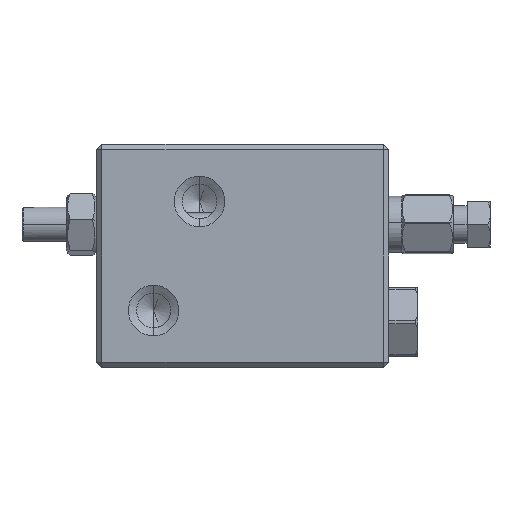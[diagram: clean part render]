
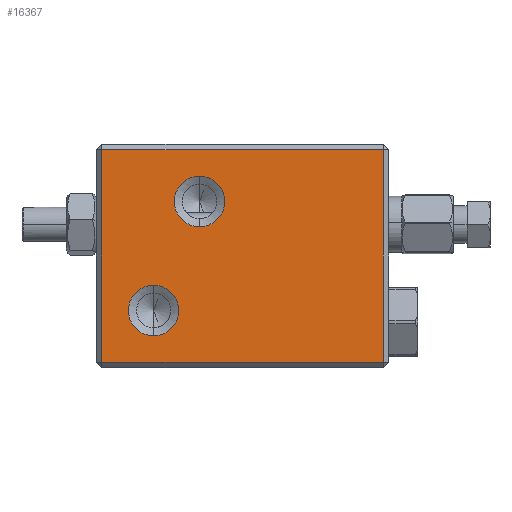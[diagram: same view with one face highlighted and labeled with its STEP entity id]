
A CAD part, left-side view. The second image highlights one B-rep face of the part: STEP entity #16367.
In plain terms, the highlighted planar face has unit normal (-1, 0, 0).
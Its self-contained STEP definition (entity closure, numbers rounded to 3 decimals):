
#327 = ORIENTED_EDGE ( 'NONE', *, *, #21890, .T. ) ;
#609 = LINE ( 'NONE', #4051, #7269 ) ;
#1397 = EDGE_CURVE ( 'NONE', #19054, #22110, #14646, .T. ) ;
#1517 = DIRECTION ( 'NONE',  ( -1., 0., 0. ) ) ;
#1699 = EDGE_CURVE ( 'NONE', #22110, #19054, #12307, .T. ) ;
#1736 = EDGE_CURVE ( 'NONE', #2591, #7936, #8582, .T. ) ;
#2591 = VERTEX_POINT ( 'NONE', #18412 ) ;
#2626 = DIRECTION ( 'NONE',  ( -1., 0., 0. ) ) ;
#2710 = CARTESIAN_POINT ( 'NONE',  ( -49., 15.5, 10. ) ) ;
#2990 = CARTESIAN_POINT ( 'NONE',  ( -49., 15.5, 5.6 ) ) ;
#3499 = AXIS2_PLACEMENT_3D ( 'NONE', #16404, #1517, #14369 ) ;
#3968 = ORIENTED_EDGE ( 'NONE', *, *, #22554, .T. ) ;
#4051 = CARTESIAN_POINT ( 'NONE',  ( -49., -24.5, 39. ) ) ;
#4118 = DIRECTION ( 'NONE',  ( 0., 0., 1. ) ) ;
#4363 = ORIENTED_EDGE ( 'NONE', *, *, #1397, .F. ) ;
#4376 = DIRECTION ( 'NONE',  ( 0., -1., 0. ) ) ;
#4484 = CIRCLE ( 'NONE', #15507, 4.4 ) ;
#5569 = ORIENTED_EDGE ( 'NONE', *, *, #14515, .F. ) ;
#5675 = CIRCLE ( 'NONE', #15275, 4.4 ) ;
#5911 = CARTESIAN_POINT ( 'NONE',  ( -49., 25.5, 38. ) ) ;
#6733 = DIRECTION ( 'NONE',  ( 1., 0., 0. ) ) ;
#6978 = VERTEX_POINT ( 'NONE', #2990 ) ;
#7269 = VECTOR ( 'NONE', #11533, 1000. ) ;
#7936 = VERTEX_POINT ( 'NONE', #10267 ) ;
#7989 = DIRECTION ( 'NONE',  ( -1., 0., 0. ) ) ;
#8308 = ORIENTED_EDGE ( 'NONE', *, *, #1736, .T. ) ;
#8540 = FACE_OUTER_BOUND ( 'NONE', #11516, .T. ) ;
#8582 = LINE ( 'NONE', #22483, #14044 ) ;
#8681 = PLANE ( 'NONE',  #11788 ) ;
#9694 = VECTOR ( 'NONE', #17051, 1000. ) ;
#10267 = CARTESIAN_POINT ( 'NONE',  ( -49., 24.5, 1. ) ) ;
#10311 = EDGE_CURVE ( 'NONE', #7936, #14644, #22131, .T. ) ;
#11516 = EDGE_LOOP ( 'NONE', ( #327, #8308, #14761, #3968 ) ) ;
#11526 = DIRECTION ( 'NONE',  ( 0., 0., -1. ) ) ;
#11533 = DIRECTION ( 'NONE',  ( 0., 0., 1. ) ) ;
#11788 = AXIS2_PLACEMENT_3D ( 'NONE', #21397, #6733, #21564 ) ;
#12276 = CARTESIAN_POINT ( 'NONE',  ( -49., 7.5, 33.4 ) ) ;
#12307 = CIRCLE ( 'NONE', #16348, 4.4 ) ;
#13522 = ORIENTED_EDGE ( 'NONE', *, *, #16731, .F. ) ;
#14044 = VECTOR ( 'NONE', #11526, 1000. ) ;
#14156 = DIRECTION ( 'NONE',  ( -1., 0., 0. ) ) ;
#14369 = DIRECTION ( 'NONE',  ( 0., 0., 1. ) ) ;
#14515 = EDGE_CURVE ( 'NONE', #15946, #6978, #5675, .T. ) ;
#14644 = VERTEX_POINT ( 'NONE', #20297 ) ;
#14646 = CIRCLE ( 'NONE', #3499, 4.4 ) ;
#14761 = ORIENTED_EDGE ( 'NONE', *, *, #10311, .T. ) ;
#14905 = ORIENTED_EDGE ( 'NONE', *, *, #1699, .F. ) ;
#15171 = FACE_BOUND ( 'NONE', #17606, .T. ) ;
#15275 = AXIS2_PLACEMENT_3D ( 'NONE', #21486, #14156, #19811 ) ;
#15423 = CARTESIAN_POINT ( 'NONE',  ( -49., 25.5, 1. ) ) ;
#15460 = EDGE_LOOP ( 'NONE', ( #14905, #4363 ) ) ;
#15507 = AXIS2_PLACEMENT_3D ( 'NONE', #2710, #2626, #15556 ) ;
#15556 = DIRECTION ( 'NONE',  ( 0., 0., 1. ) ) ;
#15794 = VECTOR ( 'NONE', #4376, 1000. ) ;
#15946 = VERTEX_POINT ( 'NONE', #16780 ) ;
#16348 = AXIS2_PLACEMENT_3D ( 'NONE', #18960, #7989, #4118 ) ;
#16367 = ADVANCED_FACE ( 'NONE', ( #8540, #18062, #15171 ), #8681, .F. ) ;
#16404 = CARTESIAN_POINT ( 'NONE',  ( -49., 7.5, 29. ) ) ;
#16665 = LINE ( 'NONE', #5911, #9694 ) ;
#16731 = EDGE_CURVE ( 'NONE', #6978, #15946, #4484, .T. ) ;
#16780 = CARTESIAN_POINT ( 'NONE',  ( -49., 15.5, 14.4 ) ) ;
#17051 = DIRECTION ( 'NONE',  ( 0., 1., 0. ) ) ;
#17606 = EDGE_LOOP ( 'NONE', ( #5569, #13522 ) ) ;
#18062 = FACE_BOUND ( 'NONE', #15460, .T. ) ;
#18346 = CARTESIAN_POINT ( 'NONE',  ( -49., 7.5, 24.6 ) ) ;
#18412 = CARTESIAN_POINT ( 'NONE',  ( -49., 24.5, 38. ) ) ;
#18783 = VERTEX_POINT ( 'NONE', #19306 ) ;
#18960 = CARTESIAN_POINT ( 'NONE',  ( -49., 7.5, 29. ) ) ;
#19054 = VERTEX_POINT ( 'NONE', #18346 ) ;
#19306 = CARTESIAN_POINT ( 'NONE',  ( -49., -24.5, 38. ) ) ;
#19811 = DIRECTION ( 'NONE',  ( 0., 0., 1. ) ) ;
#20297 = CARTESIAN_POINT ( 'NONE',  ( -49., -24.5, 1. ) ) ;
#21397 = CARTESIAN_POINT ( 'NONE',  ( -49., 25.5, 39. ) ) ;
#21486 = CARTESIAN_POINT ( 'NONE',  ( -49., 15.5, 10. ) ) ;
#21564 = DIRECTION ( 'NONE',  ( 0., 1., 0. ) ) ;
#21890 = EDGE_CURVE ( 'NONE', #18783, #2591, #16665, .T. ) ;
#22110 = VERTEX_POINT ( 'NONE', #12276 ) ;
#22131 = LINE ( 'NONE', #15423, #15794 ) ;
#22483 = CARTESIAN_POINT ( 'NONE',  ( -49., 24.5, 39. ) ) ;
#22554 = EDGE_CURVE ( 'NONE', #14644, #18783, #609, .T. ) ;
